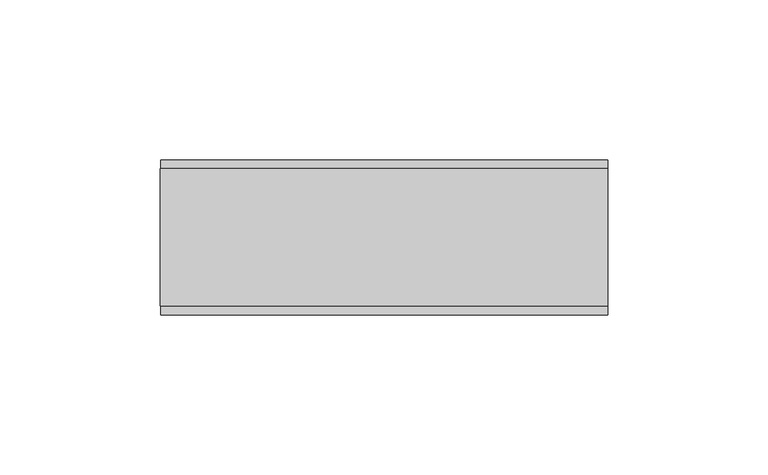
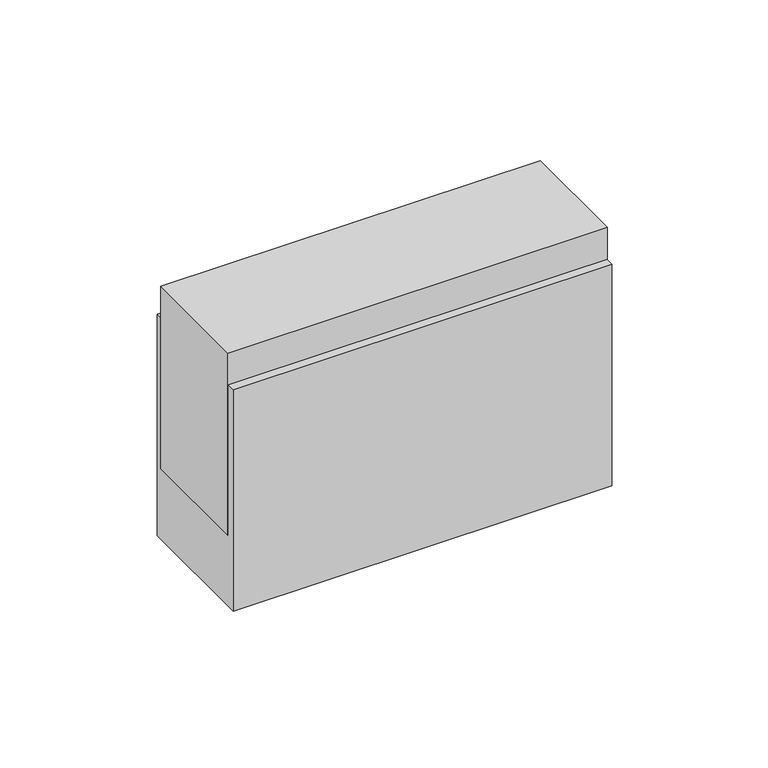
"""IFC4 building model written with IfcOpenShell, lengths in millimetres: proxy geometry, ASHLEY DUO."""

from ifc_helpers import new_model, si_unit, frame, origin, origin_with_axes, place, context, project, spatial, polyline, outline, extrude, source, transform, mapped, element, save


def generic_models_e7c302b0(model_context):
    return source(origin(), model_context, "Body", "SweptSolid", [
        extrude(outline(polyline([(139.954, -2.794), (0.254, -2.794), (0.254, 45.72), (139.954, 45.72), (139.954, -2.794)])), frame((0.0, 0.0, -27.94), z_axis=(0.0, 0.0, 1.0), x_axis=(1.0, 0.0, 0.0)), (0.0, 0.0, 1.0), 86.36),
        extrude(outline(polyline([(0.0, 42.926), (139.954, 42.926), (139.954, 0.0), (0.0, 0.0), (0.0, 42.926)])), origin_with_axes(), (0.0, 0.0, 1.0), 71.12),
    ])


if __name__ == "__main__":
    model = new_model("IFC4")
    model_context = context("Model", 3, world=origin())
    ifc_project = project(units=[si_unit("LENGTHUNIT", "METRE", prefix="MILLI")], contexts=[model_context])
    site = spatial("IfcSite", under=ifc_project)
    building = spatial("IfcBuilding", under=site)
    placement = place(None, origin())
    generic_models_shape = generic_models_e7c302b0(model_context)
    element("IfcBuildingElementProxy", 1, Name="ASHLEY DUO", ObjectType="ASHLEY DUO", at=placement, inside=building, context=model_context, shape_type="MappedRepresentation", body=[
        mapped(generic_models_shape, transform((0.0, 0.0, 0.0), x_axis=(1.0, 0.0, 0.0), y_axis=(0.0, 1.0, 0.0), z_axis=(0.0, 0.0, 1.0))),
    ])
    save(model, "model.ifc")
